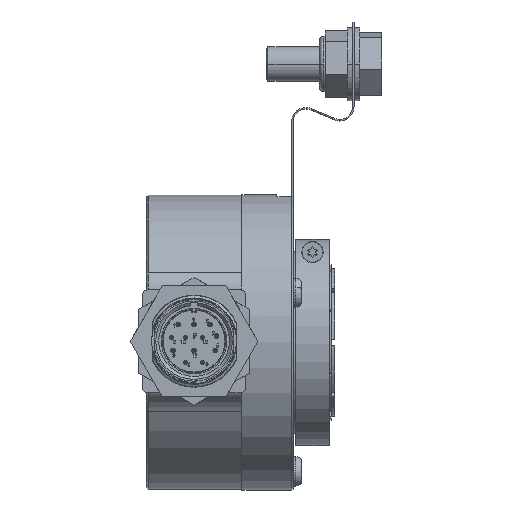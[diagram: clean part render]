
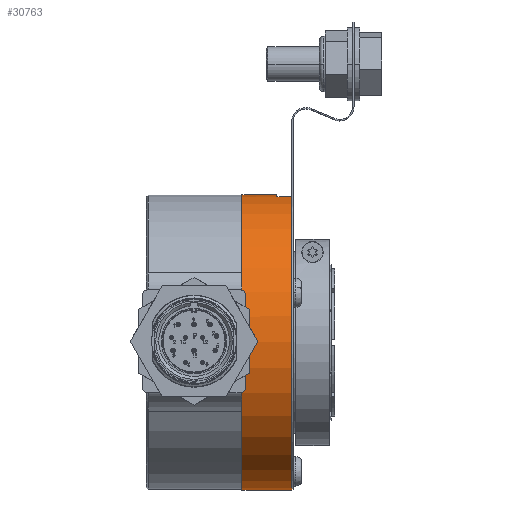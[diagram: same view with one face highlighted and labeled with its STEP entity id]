
A CAD part, top view. The second image highlights one B-rep face of the part: STEP entity #30763.
In plain terms, the highlighted cylindrical face has radius 40.075 mm (diameter 80.15 mm), a partial arc.
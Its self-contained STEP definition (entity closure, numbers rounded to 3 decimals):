
#1979 = LINE ( 'NONE', #41572, #71889 ) ;
#5559 = CARTESIAN_POINT ( 'NONE',  ( 13.5, -40.075, 0. ) ) ;
#7270 = EDGE_CURVE ( 'NONE', #72906, #13355, #30707, .T. ) ;
#8101 = LINE ( 'NONE', #14016, #49344 ) ;
#11112 = ORIENTED_EDGE ( 'NONE', *, *, #70115, .F. ) ;
#12393 = CARTESIAN_POINT ( 'NONE',  ( 0., -40.075, 0. ) ) ;
#13174 = EDGE_CURVE ( 'NONE', #13355, #41765, #8101, .T. ) ;
#13355 = VERTEX_POINT ( 'NONE', #73057 ) ;
#13412 = CARTESIAN_POINT ( 'NONE',  ( 0., 0., 0. ) ) ;
#14016 = CARTESIAN_POINT ( 'NONE',  ( -12.775, 39.468, 6.95 ) ) ;
#19894 = DIRECTION ( 'NONE',  ( -1., 0., 0. ) ) ;
#20995 = ORIENTED_EDGE ( 'NONE', *, *, #31636, .F. ) ;
#22812 = EDGE_CURVE ( 'NONE', #41765, #37698, #26785, .T. ) ;
#25620 = DIRECTION ( 'NONE',  ( -1., 0., 0. ) ) ;
#26785 = CIRCLE ( 'NONE', #29135, 40.075 ) ;
#27559 = DIRECTION ( 'NONE',  ( 0., 1., 0. ) ) ;
#28025 = DIRECTION ( 'NONE',  ( 0., 1., 0. ) ) ;
#29135 = AXIS2_PLACEMENT_3D ( 'NONE', #36509, #19894, #65001 ) ;
#30707 = CIRCLE ( 'NONE', #66187, 40.075 ) ;
#30763 = ADVANCED_FACE ( 'NONE', ( #37914 ), #54917, .T. ) ;
#31636 = EDGE_CURVE ( 'NONE', #72906, #57058, #56164, .T. ) ;
#32785 = CARTESIAN_POINT ( 'NONE',  ( 0., 40.075, 0. ) ) ;
#35728 = CIRCLE ( 'NONE', #55788, 40.075 ) ;
#36509 = CARTESIAN_POINT ( 'NONE',  ( 9.5, 0., 0. ) ) ;
#37698 = VERTEX_POINT ( 'NONE', #38117 ) ;
#37914 = FACE_OUTER_BOUND ( 'NONE', #72246, .T. ) ;
#38117 = CARTESIAN_POINT ( 'NONE',  ( 9.5, 40.075, 0. ) ) ;
#39100 = DIRECTION ( 'NONE',  ( -1., 0., 0. ) ) ;
#41140 = DIRECTION ( 'NONE',  ( 0., 1., 0. ) ) ;
#41572 = CARTESIAN_POINT ( 'NONE',  ( -12.775, 40.075, 0. ) ) ;
#41765 = VERTEX_POINT ( 'NONE', #63256 ) ;
#43233 = ORIENTED_EDGE ( 'NONE', *, *, #13174, .T. ) ;
#43812 = ORIENTED_EDGE ( 'NONE', *, *, #22812, .T. ) ;
#44649 = CARTESIAN_POINT ( 'NONE',  ( 13.5, 0., 0. ) ) ;
#45489 = EDGE_CURVE ( 'NONE', #37698, #66130, #1979, .T. ) ;
#46222 = AXIS2_PLACEMENT_3D ( 'NONE', #60834, #71592, #27559 ) ;
#47075 = ORIENTED_EDGE ( 'NONE', *, *, #45489, .T. ) ;
#47238 = ORIENTED_EDGE ( 'NONE', *, *, #7270, .T. ) ;
#47292 = DIRECTION ( 'NONE',  ( -1., 0., 0. ) ) ;
#49344 = VECTOR ( 'NONE', #47292, 1000. ) ;
#54917 = CYLINDRICAL_SURFACE ( 'NONE', #46222, 40.075 ) ;
#55788 = AXIS2_PLACEMENT_3D ( 'NONE', #13412, #25620, #41140 ) ;
#56164 = LINE ( 'NONE', #62458, #61706 ) ;
#56875 = DIRECTION ( 'NONE',  ( -1., 0., 0. ) ) ;
#57058 = VERTEX_POINT ( 'NONE', #12393 ) ;
#60834 = CARTESIAN_POINT ( 'NONE',  ( -12.775, 0., 0. ) ) ;
#61706 = VECTOR ( 'NONE', #56875, 1000. ) ;
#62458 = CARTESIAN_POINT ( 'NONE',  ( -12.775, -40.075, 0. ) ) ;
#63256 = CARTESIAN_POINT ( 'NONE',  ( 9.5, 39.468, 6.95 ) ) ;
#65001 = DIRECTION ( 'NONE',  ( 0., 1., 0. ) ) ;
#66130 = VERTEX_POINT ( 'NONE', #32785 ) ;
#66187 = AXIS2_PLACEMENT_3D ( 'NONE', #44649, #39100, #28025 ) ;
#70061 = DIRECTION ( 'NONE',  ( -1., 0., 0. ) ) ;
#70115 = EDGE_CURVE ( 'NONE', #57058, #66130, #35728, .T. ) ;
#71592 = DIRECTION ( 'NONE',  ( -1., 0., 0. ) ) ;
#71889 = VECTOR ( 'NONE', #70061, 1000. ) ;
#72246 = EDGE_LOOP ( 'NONE', ( #20995, #47238, #43233, #43812, #47075, #11112 ) ) ;
#72906 = VERTEX_POINT ( 'NONE', #5559 ) ;
#73057 = CARTESIAN_POINT ( 'NONE',  ( 13.5, 39.468, 6.95 ) ) ;
